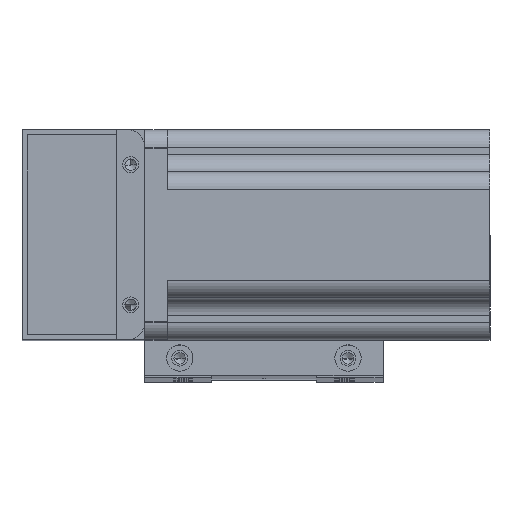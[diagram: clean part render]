
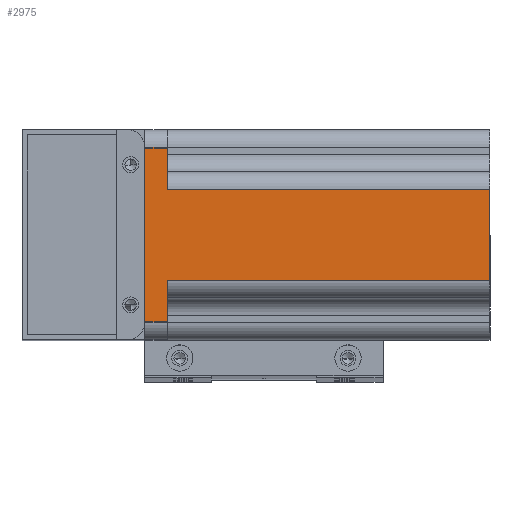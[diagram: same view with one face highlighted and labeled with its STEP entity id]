
A CAD part, top view. The second image highlights one B-rep face of the part: STEP entity #2975.
In plain terms, the highlighted planar face has unit normal (0, 0, 1) as drawn and (-1, 0, 0) by its records, which use the part's own axes.
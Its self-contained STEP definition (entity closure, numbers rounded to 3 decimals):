
#1404 = DIRECTION ( 'NONE',  ( 0., -1., 0. ) ) ;
#2699 = DIRECTION ( 'NONE',  ( 0., -1., 0. ) ) ;
#2916 = CARTESIAN_POINT ( 'NONE',  ( -30., -13., 0. ) ) ;
#2975 = ADVANCED_FACE ( 'NONE', ( #6301 ), #23727, .F. ) ;
#3326 = VERTEX_POINT ( 'NONE', #27284 ) ;
#3401 = VECTOR ( 'NONE', #15024, 1000. ) ;
#3676 = VERTEX_POINT ( 'NONE', #28448 ) ;
#5302 = CARTESIAN_POINT ( 'NONE',  ( -30., -25., 6.5 ) ) ;
#6252 = ORIENTED_EDGE ( 'NONE', *, *, #26699, .T. ) ;
#6301 = FACE_OUTER_BOUND ( 'NONE', #25211, .T. ) ;
#6551 = DIRECTION ( 'NONE',  ( 0., 0., -1. ) ) ;
#6646 = ORIENTED_EDGE ( 'NONE', *, *, #10566, .T. ) ;
#6936 = VECTOR ( 'NONE', #6551, 1000. ) ;
#7262 = VERTEX_POINT ( 'NONE', #2916 ) ;
#7553 = LINE ( 'NONE', #19992, #24223 ) ;
#7579 = LINE ( 'NONE', #23065, #27081 ) ;
#7717 = DIRECTION ( 'NONE',  ( 0., 1., 0. ) ) ;
#8082 = VERTEX_POINT ( 'NONE', #18940 ) ;
#10566 = EDGE_CURVE ( 'NONE', #3326, #8082, #28564, .T. ) ;
#10884 = EDGE_CURVE ( 'NONE', #7262, #14184, #27114, .T. ) ;
#11021 = AXIS2_PLACEMENT_3D ( 'NONE', #19271, #17178, #28383 ) ;
#11751 = EDGE_CURVE ( 'NONE', #18259, #18039, #7579, .T. ) ;
#11935 = VERTEX_POINT ( 'NONE', #26026 ) ;
#13403 = CARTESIAN_POINT ( 'NONE',  ( -30., 13., 6.5 ) ) ;
#14011 = ORIENTED_EDGE ( 'NONE', *, *, #11751, .F. ) ;
#14184 = VERTEX_POINT ( 'NONE', #16036 ) ;
#14435 = VECTOR ( 'NONE', #1404, 1000. ) ;
#15024 = DIRECTION ( 'NONE',  ( 0., -1., 0. ) ) ;
#15192 = ORIENTED_EDGE ( 'NONE', *, *, #23752, .F. ) ;
#15607 = DIRECTION ( 'NONE',  ( 0., 0., 1. ) ) ;
#16003 = DIRECTION ( 'NONE',  ( 0., 0., -1. ) ) ;
#16036 = CARTESIAN_POINT ( 'NONE',  ( -30., -25., 0. ) ) ;
#16634 = EDGE_CURVE ( 'NONE', #18259, #11935, #28528, .T. ) ;
#16637 = CARTESIAN_POINT ( 'NONE',  ( -30., -18., -92. ) ) ;
#17178 = DIRECTION ( 'NONE',  ( 1., 0., 0. ) ) ;
#18039 = VERTEX_POINT ( 'NONE', #26294 ) ;
#18259 = VERTEX_POINT ( 'NONE', #24428 ) ;
#18940 = CARTESIAN_POINT ( 'NONE',  ( -30., 13., -92. ) ) ;
#19002 = VECTOR ( 'NONE', #7717, 1000. ) ;
#19271 = CARTESIAN_POINT ( 'NONE',  ( -30., -25., 6.5 ) ) ;
#19992 = CARTESIAN_POINT ( 'NONE',  ( -30., -13., 6.5 ) ) ;
#20389 = CARTESIAN_POINT ( 'NONE',  ( -30., 25., 6.5 ) ) ;
#20471 = LINE ( 'NONE', #26424, #14435 ) ;
#23065 = CARTESIAN_POINT ( 'NONE',  ( -30., -25., 6.5 ) ) ;
#23727 = PLANE ( 'NONE',  #11021 ) ;
#23752 = EDGE_CURVE ( 'NONE', #18039, #14184, #29086, .T. ) ;
#24223 = VECTOR ( 'NONE', #15607, 1000. ) ;
#24428 = CARTESIAN_POINT ( 'NONE',  ( -30., 25., 6.5 ) ) ;
#25211 = EDGE_LOOP ( 'NONE', ( #26009, #28575, #26425, #15192, #14011, #28617, #6252, #6646 ) ) ;
#25741 = LINE ( 'NONE', #16637, #19002 ) ;
#26009 = ORIENTED_EDGE ( 'NONE', *, *, #27159, .F. ) ;
#26026 = CARTESIAN_POINT ( 'NONE',  ( -30., 25., 0. ) ) ;
#26208 = CARTESIAN_POINT ( 'NONE',  ( -30., -25., 0. ) ) ;
#26294 = CARTESIAN_POINT ( 'NONE',  ( -30., -25., 6.5 ) ) ;
#26424 = CARTESIAN_POINT ( 'NONE',  ( -30., -25., 0. ) ) ;
#26425 = ORIENTED_EDGE ( 'NONE', *, *, #10884, .T. ) ;
#26699 = EDGE_CURVE ( 'NONE', #11935, #3326, #20471, .T. ) ;
#26731 = VECTOR ( 'NONE', #16003, 1000. ) ;
#27081 = VECTOR ( 'NONE', #2699, 1000. ) ;
#27114 = LINE ( 'NONE', #26208, #3401 ) ;
#27159 = EDGE_CURVE ( 'NONE', #3676, #8082, #25741, .T. ) ;
#27284 = CARTESIAN_POINT ( 'NONE',  ( -30., 13., 0. ) ) ;
#27594 = DIRECTION ( 'NONE',  ( 0., 0., -1. ) ) ;
#27980 = EDGE_CURVE ( 'NONE', #3676, #7262, #7553, .T. ) ;
#28383 = DIRECTION ( 'NONE',  ( 0., 0., -1. ) ) ;
#28448 = CARTESIAN_POINT ( 'NONE',  ( -30., -13., -92. ) ) ;
#28528 = LINE ( 'NONE', #20389, #26731 ) ;
#28564 = LINE ( 'NONE', #13403, #6936 ) ;
#28575 = ORIENTED_EDGE ( 'NONE', *, *, #27980, .T. ) ;
#28617 = ORIENTED_EDGE ( 'NONE', *, *, #16634, .T. ) ;
#28762 = VECTOR ( 'NONE', #27594, 1000. ) ;
#29086 = LINE ( 'NONE', #5302, #28762 ) ;
